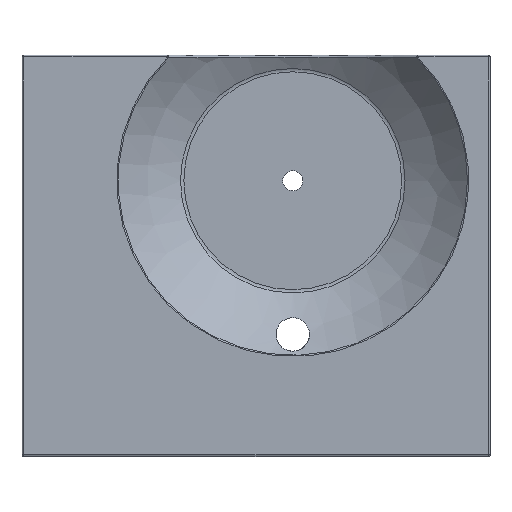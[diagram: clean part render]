
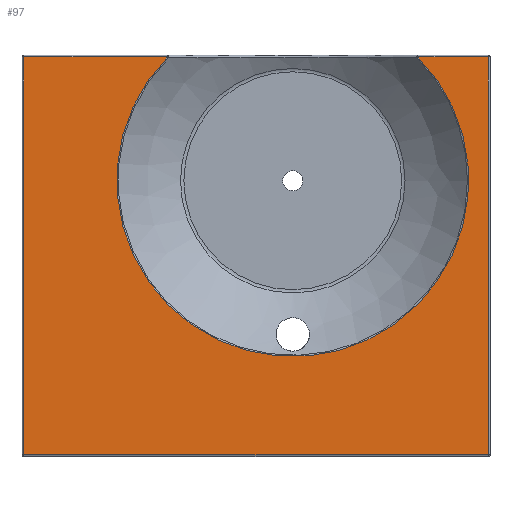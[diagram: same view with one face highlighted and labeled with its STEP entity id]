
A CAD part, top view. The second image highlights one B-rep face of the part: STEP entity #97.
In plain terms, the highlighted planar face has unit normal (0, 0, 1).
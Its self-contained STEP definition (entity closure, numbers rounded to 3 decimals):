
#97 = ADVANCED_FACE( '', ( #182 ), #183, .T. );
#182 = FACE_OUTER_BOUND( '', #305, .T. );
#183 = PLANE( '', #306 );
#305 = EDGE_LOOP( '', ( #554, #555, #556, #557, #558, #559 ) );
#306 = AXIS2_PLACEMENT_3D( '', #560, #561, #562 );
#554 = ORIENTED_EDGE( '', *, *, #864, .T. );
#555 = ORIENTED_EDGE( '', *, *, #865, .T. );
#556 = ORIENTED_EDGE( '', *, *, #866, .T. );
#557 = ORIENTED_EDGE( '', *, *, #867, .T. );
#558 = ORIENTED_EDGE( '', *, *, #868, .T. );
#559 = ORIENTED_EDGE( '', *, *, #869, .T. );
#560 = CARTESIAN_POINT( '', ( 0., 0., 50. ) );
#561 = DIRECTION( '', ( 0., 0., 1. ) );
#562 = DIRECTION( '', ( 1., 0., 0. ) );
#864 = EDGE_CURVE( '', #1035, #1036, #1037, .F. );
#865 = EDGE_CURVE( '', #1036, #1038, #1039, .F. );
#866 = EDGE_CURVE( '', #1038, #1040, #1041, .F. );
#867 = EDGE_CURVE( '', #1040, #1042, #1043, .F. );
#868 = EDGE_CURVE( '', #1042, #1044, #1045, .F. );
#869 = EDGE_CURVE( '', #1044, #1035, #1046, .F. );
#1035 = VERTEX_POINT( '', #1447 );
#1036 = VERTEX_POINT( '', #1448 );
#1037 = LINE( '', #1449, #1450 );
#1038 = VERTEX_POINT( '', #1451 );
#1039 = LINE( '', #1452, #1453 );
#1040 = VERTEX_POINT( '', #1454 );
#1041 = CIRCLE( '', #1455, 52.631 );
#1042 = VERTEX_POINT( '', #1456 );
#1043 = LINE( '', #1457, #1458 );
#1044 = VERTEX_POINT( '', #1459 );
#1045 = LINE( '', #1460, #1461 );
#1046 = LINE( '', #1462, #1463 );
#1447 = CARTESIAN_POINT( '', ( 69.5, -59.5, 50. ) );
#1448 = CARTESIAN_POINT( '', ( 69.5, 59.5, 50. ) );
#1449 = CARTESIAN_POINT( '', ( 69.5, 0., 50. ) );
#1450 = VECTOR( '', #1741, 1000. );
#1451 = CARTESIAN_POINT( '', ( 48.431, 59.5, 50. ) );
#1452 = CARTESIAN_POINT( '', ( 0., 59.5, 50. ) );
#1453 = VECTOR( '', #1742, 1000. );
#1454 = CARTESIAN_POINT( '', ( -26.431, 59.5, 50. ) );
#1455 = AXIS2_PLACEMENT_3D( '', #1743, #1744, #1745 );
#1456 = CARTESIAN_POINT( '', ( -69.5, 59.5, 50. ) );
#1457 = CARTESIAN_POINT( '', ( 0., 59.5, 50. ) );
#1458 = VECTOR( '', #1746, 1000. );
#1459 = CARTESIAN_POINT( '', ( -69.5, -59.5, 50. ) );
#1460 = CARTESIAN_POINT( '', ( -69.5, 0., 50. ) );
#1461 = VECTOR( '', #1747, 1000. );
#1462 = CARTESIAN_POINT( '', ( 0., -59.5, 50. ) );
#1463 = VECTOR( '', #1748, 1000. );
#1741 = DIRECTION( '', ( 0., -1., 0. ) );
#1742 = DIRECTION( '', ( 1., 0., 0. ) );
#1743 = CARTESIAN_POINT( '', ( 11., 22.5, 50. ) );
#1744 = DIRECTION( '', ( 0., 0., 1. ) );
#1745 = DIRECTION( '', ( 1., 0., 0. ) );
#1746 = DIRECTION( '', ( 1., 0., 0. ) );
#1747 = DIRECTION( '', ( 0., 1., 0. ) );
#1748 = DIRECTION( '', ( -1., 0., 0. ) );
